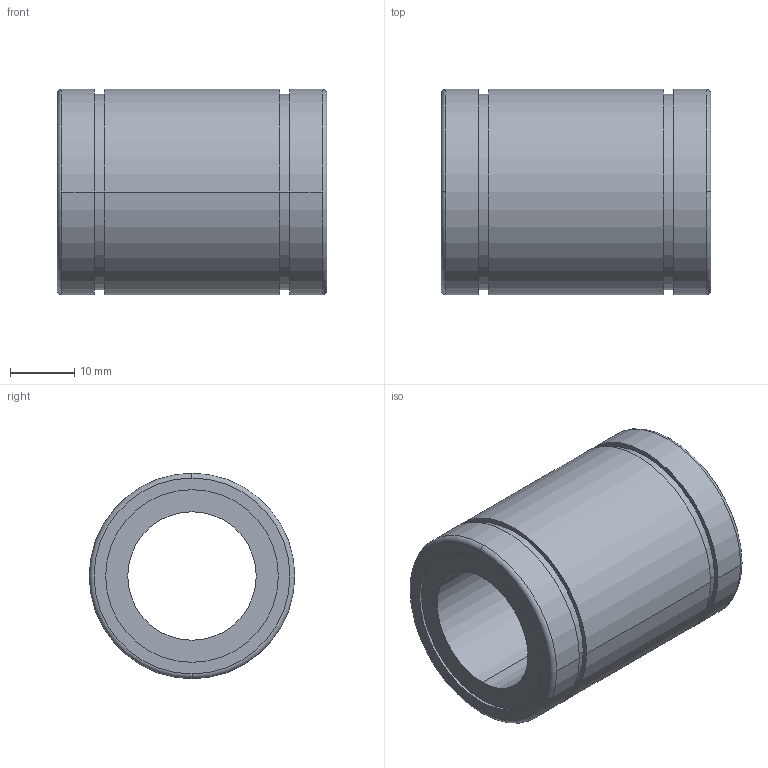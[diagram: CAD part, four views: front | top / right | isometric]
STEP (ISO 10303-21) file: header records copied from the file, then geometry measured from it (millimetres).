
FILE_DESCRIPTION(('FreeCAD Model'),'2;1');
FILE_NAME('Open CASCADE Shape Model','2021-05-03T10:57:57',('Author'),( ''),'Open CASCADE STEP processor 7.5','FreeCAD','Unknown');
FILE_SCHEMA(('AUTOMOTIVE_DESIGN { 1 0 10303 214 1 1 1 1 }'));
Length unit declared in the file: millimetre
Products named in the file (1): ball_bearing_lm20uu
Bounding box: 42 x 32 x 32 mm (x, y, z)
Volume: 20111.3 mm3; surface area: 8073.8 mm2
Topology: 1 solids, 1 shells, 28 faces, 62 edges, 42 vertices
Faces by surface type: cylinder 16, plane 8, torus 4
Entity records: 1893 total; most frequent: CARTESIAN_POINT 395, DIRECTION 267, ORIENTED_EDGE 124, PCURVE 124, DEFINITIONAL_REPRESENTATION 124, LINE 106, VECTOR 106, AXIS2_PLACEMENT_3D 75
